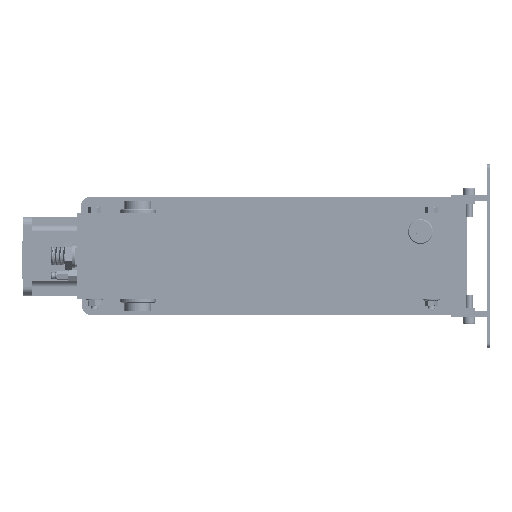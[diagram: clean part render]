
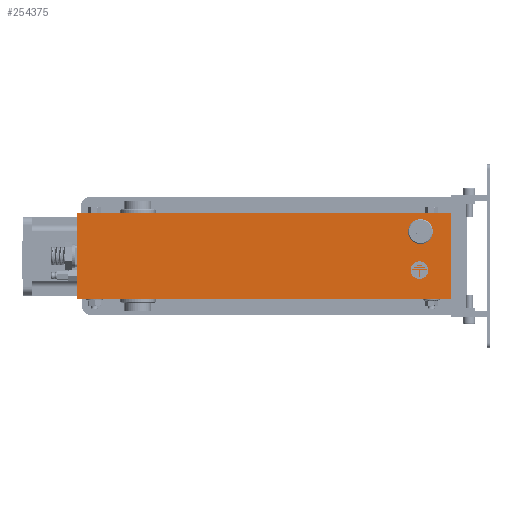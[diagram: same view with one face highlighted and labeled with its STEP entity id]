
A CAD part, left-side view. The second image highlights one B-rep face of the part: STEP entity #254375.
In plain terms, the highlighted planar face has unit normal (-1, 0, 0).
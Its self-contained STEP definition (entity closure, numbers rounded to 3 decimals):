
#11027 = EDGE_CURVE ( 'NONE', #236907, #59567, #15447, .T. ) ;
#15447 = LINE ( 'NONE', #262705, #143415 ) ;
#16038 = DIRECTION ( 'NONE',  ( 0., 0., -1. ) ) ;
#59567 = VERTEX_POINT ( 'NONE', #281240 ) ;
#59710 = CARTESIAN_POINT ( 'NONE',  ( -504.374, 390.71, -271.253 ) ) ;
#78332 = CARTESIAN_POINT ( 'NONE',  ( -504.374, 470.71, 64.747 ) ) ;
#79898 = VECTOR ( 'NONE', #161055, 1000. ) ;
#83835 = DIRECTION ( 'NONE',  ( 0., 0., 1. ) ) ;
#94152 = CARTESIAN_POINT ( 'NONE',  ( -504.374, 470.71, -113.253 ) ) ;
#99151 = ORIENTED_EDGE ( 'NONE', *, *, #117453, .T. ) ;
#101103 = LINE ( 'NONE', #229196, #193708 ) ;
#103920 = EDGE_CURVE ( 'NONE', #59567, #203671, #101103, .T. ) ;
#117453 = EDGE_CURVE ( 'NONE', #144288, #236907, #160993, .T. ) ;
#131222 = CARTESIAN_POINT ( 'NONE',  ( -504.374, 470.71, -32.253 ) ) ;
#143328 = DIRECTION ( 'NONE',  ( 0., 1., 0. ) ) ;
#143415 = VECTOR ( 'NONE', #83835, 1000. ) ;
#144288 = VERTEX_POINT ( 'NONE', #131222 ) ;
#159837 = EDGE_LOOP ( 'NONE', ( #221188, #99151, #161724, #238417 ) ) ;
#160993 = LINE ( 'NONE', #227891, #275421 ) ;
#161055 = DIRECTION ( 'NONE',  ( 0., 0., -1. ) ) ;
#161724 = ORIENTED_EDGE ( 'NONE', *, *, #11027, .T. ) ;
#167405 = FACE_OUTER_BOUND ( 'NONE', #159837, .T. ) ;
#185676 = DIRECTION ( 'NONE',  ( 0., -1., 0. ) ) ;
#193708 = VECTOR ( 'NONE', #143328, 1000. ) ;
#200400 = LINE ( 'NONE', #94152, #79898 ) ;
#200484 = EDGE_CURVE ( 'NONE', #203671, #144288, #200400, .T. ) ;
#203671 = VERTEX_POINT ( 'NONE', #78332 ) ;
#221188 = ORIENTED_EDGE ( 'NONE', *, *, #200484, .T. ) ;
#227351 = AXIS2_PLACEMENT_3D ( 'NONE', #59710, #257554, #16038 ) ;
#227891 = CARTESIAN_POINT ( 'NONE',  ( -504.374, 470.71, -32.253 ) ) ;
#229196 = CARTESIAN_POINT ( 'NONE',  ( -504.374, 50.71, 64.747 ) ) ;
#235795 = PLANE ( 'NONE',  #227351 ) ;
#236907 = VERTEX_POINT ( 'NONE', #276908 ) ;
#238417 = ORIENTED_EDGE ( 'NONE', *, *, #103920, .T. ) ;
#254375 = ADVANCED_FACE ( 'NONE', ( #167405 ), #235795, .F. ) ;
#257554 = DIRECTION ( 'NONE',  ( 1., 0., 0. ) ) ;
#262705 = CARTESIAN_POINT ( 'NONE',  ( -504.374, 48.71, 64.747 ) ) ;
#275421 = VECTOR ( 'NONE', #185676, 1000. ) ;
#276908 = CARTESIAN_POINT ( 'NONE',  ( -504.374, 48.71, -32.253 ) ) ;
#281240 = CARTESIAN_POINT ( 'NONE',  ( -504.374, 48.71, 64.747 ) ) ;
